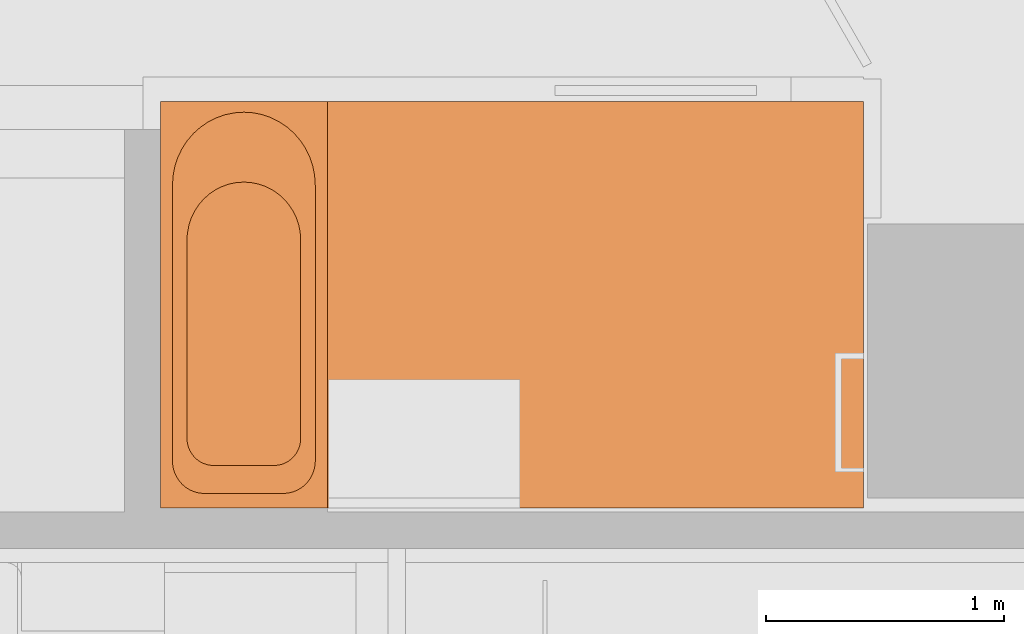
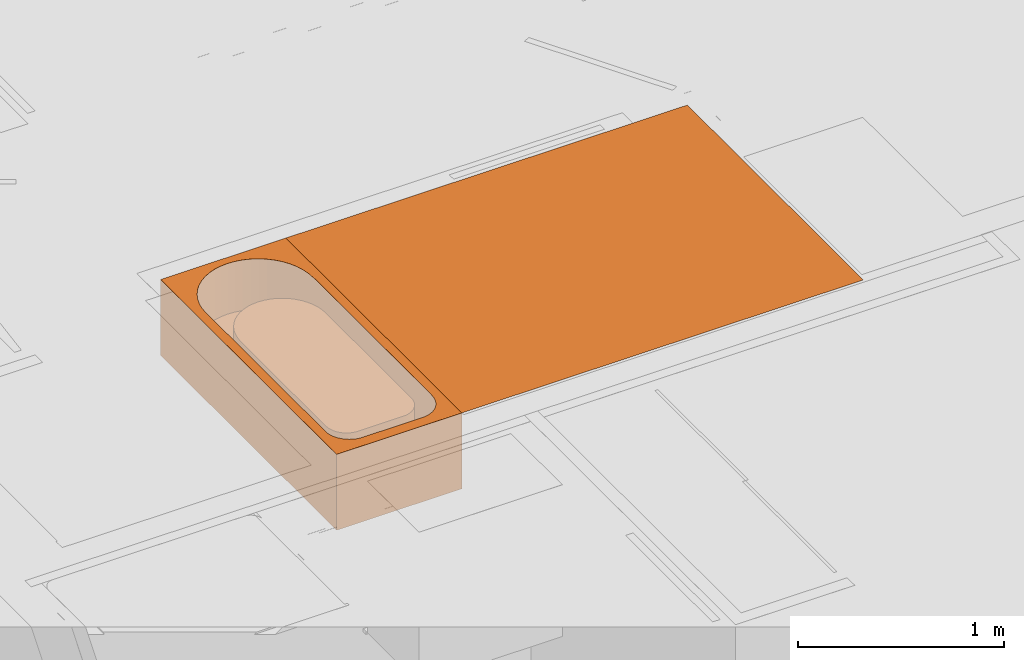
# Not in any storey, part 18 of 22: 2 proxies.
"""IFC4 model written with IfcOpenShell, lengths in metres."""

from ifc_helpers import new_model, si_unit, direction, origin_with_axes, place, context, subcontext, project, faceted_brep, element, save


model = new_model("IFC4")

# Units and contexts
model_context = context("Model", 3, precision=1e-05, world=origin_with_axes(), true_north=direction((1.0, 0.0)))
body_context = subcontext(model_context, "Body", "Model", "MODEL_VIEW")
ifc_project = project(units=[si_unit("LENGTHUNIT", "METRE"), si_unit("AREAUNIT", "SQUARE_METRE"), si_unit("VOLUMEUNIT", "CUBIC_METRE"), si_unit("MASSUNIT", "GRAM", prefix="KILO"), si_unit("TIMEUNIT", "SECOND"), si_unit("PLANEANGLEUNIT", "RADIAN"), si_unit("SOLIDANGLEUNIT", "STERADIAN")], contexts=[model_context])

# Proxies
placement = place(None, origin_with_axes())
element("IfcBuildingElementProxy", 1, at=placement, Name="Bloc Baignoire 170", PredefinedType="NOTDEFINED", context=body_context, shape_type="AdvancedBrep", body=[
    faceted_brep([(150.702811, 23.82924, 2.26), (150.702789, 22.996607, 2.26), (150.702583, 22.989184, 2.26), (150.701895, 22.98178, 2.26), (150.700729, 22.97443, 2.26), (150.699091, 22.967166, 2.26), (150.696986, 22.96002, 2.26), (150.694426, 22.953024, 2.26), (150.69142, 22.946209, 2.26), (150.687983, 22.939606, 2.26), (150.68413, 22.933243, 2.26), (150.679877, 22.927148, 2.26), (150.675245, 22.92135, 2.26), (150.670252, 22.915874, 2.26), (150.664922, 22.910744, 2.26), (150.659279, 22.905982, 2.26), (150.653346, 22.901611, 2.26), (150.647151, 22.897649, 2.26), (150.640722, 22.894114, 2.26), (150.634086, 22.891023, 2.26), (150.627274, 22.888387, 2.26), (150.620315, 22.88622, 2.26), (150.61324, 22.884531, 2.26), (150.606082, 22.883328, 2.26), (150.598871, 22.882615, 2.26), (150.59164, 22.882396, 2.26), (150.336136, 22.882397, 2.26), (150.328905, 22.882616, 2.26), (150.321694, 22.88333, 2.26), (150.314534, 22.884535, 2.26), (150.307458, 22.886226, 2.26), (150.300497, 22.888395, 2.26), (150.293682, 22.891034, 2.26), (150.287044, 22.894129, 2.26), (150.280612, 22.897667, 2.26), (150.274415, 22.901633, 2.26), (150.268482, 22.906008, 2.26), (150.262837, 22.910773, 2.26), (150.257508, 22.915907, 2.26), (150.252516, 22.921386, 2.26), (150.247886, 22.927187, 2.26), (150.243637, 22.933283, 2.26), (150.239788, 22.939647, 2.26), (150.236357, 22.946251, 2.26), (150.233359, 22.953065, 2.26), (150.230808, 22.960059, 2.26), (150.228714, 22.967201, 2.26), (150.227088, 22.974459, 2.26), (150.225936, 22.981802, 2.26), (150.225263, 22.989195, 2.26), (150.223877, 22.998894, 2.26), (150.223877, 23.828562, 2.26), (150.227061, 23.861094, 2.26), (150.233123, 23.892408, 2.26), (150.243141, 23.922645, 2.26), (150.256943, 23.951286, 2.26), (150.274292, 23.977841, 2.26), (150.294891, 24.001855, 2.26), (150.318388, 24.022915, 2.26), (150.344379, 24.040662, 2.26), (150.372419, 24.054791, 2.26), (150.402028, 24.065059, 2.26), (150.432697, 24.071292, 2.26), (150.463902, 24.073381, 2.26), (150.495107, 24.071292, 2.26), (150.525778, 24.065059, 2.26), (150.555389, 24.054791, 2.26), (150.583433, 24.040662, 2.26), (150.609429, 24.022915, 2.26), (150.632931, 24.001855, 2.26), (150.653537, 23.977841, 2.26), (150.670894, 23.951286, 2.26), (150.684703, 23.922645, 2.26), (150.694729, 23.892408, 2.26), (150.7008, 23.861094, 2.26), (150.816497, 24.412715, 2.31), (150.113819, 24.412715, 2.31), (150.113819, 22.702585, 2.31), (150.816497, 22.702585, 2.31), (150.765701, 22.914781, 2.31), (150.763662, 22.892954, 2.31), (150.762831, 22.884062, 2.31), (150.761429, 22.875238, 2.31), (150.759461, 22.86652, 2.31), (150.756936, 22.857947, 2.31), (150.753866, 22.849556, 2.31), (150.750264, 22.841385, 2.31), (150.746145, 22.833468, 2.31), (150.741528, 22.825842, 2.31), (150.736434, 22.81854, 2.31), (150.730883, 22.811592, 2.31), (150.724902, 22.805032, 2.31), (150.718515, 22.798886, 2.31), (150.711752, 22.793182, 2.31), (150.704642, 22.787945, 2.31), (150.697216, 22.783199, 2.31), (150.689507, 22.778963, 2.31), (150.681549, 22.775258, 2.31), (150.673377, 22.772098, 2.31), (150.665026, 22.769498, 2.31), (150.656534, 22.767469, 2.31), (150.647937, 22.76602, 2.31), (150.639274, 22.765158, 2.31), (150.630582, 22.764886, 2.31), (150.630582, 22.765152, 2.31), (150.288591, 22.765152, 2.31), (150.279933, 22.766004, 2.31), (150.271339, 22.767445, 2.31), (150.262849, 22.769467, 2.31), (150.254498, 22.772062, 2.31), (150.246325, 22.775218, 2.31), (150.238366, 22.778921, 2.31), (150.230655, 22.783155, 2.31), (150.223226, 22.787902, 2.31), (150.216113, 22.793139, 2.31), (150.209346, 22.798845, 2.31), (150.202957, 22.804993, 2.31), (150.196972, 22.811558, 2.31), (150.191418, 22.818509, 2.31), (150.186321, 22.825816, 2.31), (150.181702, 22.833447, 2.31), (150.177581, 22.841368, 2.31), (150.173978, 22.849543, 2.31), (150.170908, 22.857938, 2.31), (150.168384, 22.866515, 2.31), (150.166417, 22.875236, 2.31), (150.165017, 22.884062, 2.31), (150.164367, 22.891056, 2.31), (150.164615, 22.905767, 2.31), (150.164615, 24.015713, 2.31), (150.16392, 24.060613, 2.31), (150.166436, 24.100622, 2.31), (150.174051, 24.139951, 2.31), (150.186634, 24.177927, 2.31), (150.20397, 24.2139, 2.31), (150.225761, 24.247253, 2.31), (150.251634, 24.277413, 2.31), (150.281145, 24.303865, 2.31), (150.313789, 24.326155, 2.31), (150.349006, 24.3439, 2.31), (150.386192, 24.356797, 2.31), (150.424711, 24.364625, 2.31), (150.463902, 24.367249, 2.31), (150.503094, 24.364625, 2.31), (150.541614, 24.356797, 2.31), (150.578802, 24.3439, 2.31), (150.614022, 24.326155, 2.31), (150.64667, 24.303865, 2.31), (150.676185, 24.277413, 2.31), (150.702062, 24.247253, 2.31), (150.723858, 24.2139, 2.31), (150.741199, 24.177927, 2.31), (150.753788, 24.139951, 2.31), (150.761409, 24.100622, 2.31), (150.765701, 24.036706, 2.31), (150.113819, 24.412715, 1.86), (150.816497, 24.412715, 1.86), (150.816497, 22.702585, 1.86), (150.113819, 22.702585, 1.86), (150.763662, 22.892954, 1.86), (150.765701, 22.914781, 1.86), (150.765701, 24.036706, 1.86), (150.761409, 24.100622, 1.86), (150.753788, 24.139951, 1.86), (150.741199, 24.177927, 1.86), (150.723858, 24.2139, 1.86), (150.702062, 24.247253, 1.86), (150.676185, 24.277413, 1.86), (150.64667, 24.303865, 1.86), (150.614022, 24.326155, 1.86), (150.578802, 24.3439, 1.86), (150.541614, 24.356797, 1.86), (150.503094, 24.364625, 1.86), (150.463902, 24.367249, 1.86), (150.424711, 24.364625, 1.86), (150.386192, 24.356797, 1.86), (150.349006, 24.3439, 1.86), (150.313789, 24.326155, 1.86), (150.281145, 24.303865, 1.86), (150.251634, 24.277413, 1.86), (150.225761, 24.247253, 1.86), (150.20397, 24.2139, 1.86), (150.186634, 24.177927, 1.86), (150.174051, 24.139951, 1.86), (150.166436, 24.100622, 1.86), (150.16392, 24.060613, 1.86), (150.164615, 24.015713, 1.86), (150.164615, 22.905767, 1.86), (150.164367, 22.891056, 1.86), (150.165017, 22.884062, 1.86), (150.166417, 22.875236, 1.86), (150.168384, 22.866515, 1.86), (150.170908, 22.857938, 1.86), (150.173978, 22.849543, 1.86), (150.177581, 22.841368, 1.86), (150.181702, 22.833447, 1.86), (150.186321, 22.825816, 1.86), (150.191418, 22.818509, 1.86), (150.196972, 22.811558, 1.86), (150.202957, 22.804993, 1.86), (150.209346, 22.798845, 1.86), (150.216113, 22.793139, 1.86), (150.223226, 22.787902, 1.86), (150.230655, 22.783155, 1.86), (150.238366, 22.778921, 1.86), (150.246325, 22.775218, 1.86), (150.254498, 22.772062, 1.86), (150.262849, 22.769467, 1.86), (150.271339, 22.767445, 1.86), (150.279933, 22.766004, 1.86), (150.288591, 22.765152, 1.86), (150.630582, 22.765152, 1.86), (150.630582, 22.764886, 1.86), (150.639274, 22.765158, 1.86), (150.647937, 22.76602, 1.86), (150.656534, 22.767469, 1.86), (150.665026, 22.769498, 1.86), (150.673377, 22.772098, 1.86), (150.681549, 22.775258, 1.86), (150.689507, 22.778963, 1.86), (150.697216, 22.783199, 1.86), (150.704642, 22.787945, 1.86), (150.711752, 22.793182, 1.86), (150.718515, 22.798886, 1.86), (150.724902, 22.805032, 1.86), (150.730883, 22.811592, 1.86), (150.736434, 22.81854, 1.86), (150.741528, 22.825842, 1.86), (150.746145, 22.833468, 1.86), (150.750264, 22.841385, 1.86), (150.753866, 22.849556, 1.86), (150.756936, 22.857947, 1.86), (150.759461, 22.86652, 1.86), (150.761429, 22.875238, 1.86), (150.762831, 22.884062, 1.86), (150.763662, 22.892954, 2.01), (150.765701, 22.914781, 2.01), (150.765701, 24.036706, 2.01), (150.761409, 24.100622, 2.01), (150.753788, 24.139951, 2.01), (150.741199, 24.177927, 2.01), (150.723858, 24.2139, 2.01), (150.702062, 24.247253, 2.01), (150.676185, 24.277413, 2.01), (150.64667, 24.303865, 2.01), (150.614022, 24.326155, 2.01), (150.578802, 24.3439, 2.01), (150.541614, 24.356797, 2.01), (150.503094, 24.364625, 2.01), (150.463902, 24.367249, 2.01), (150.424711, 24.364625, 2.01), (150.386192, 24.356797, 2.01), (150.349006, 24.3439, 2.01), (150.313789, 24.326155, 2.01), (150.281145, 24.303865, 2.01), (150.251634, 24.277413, 2.01), (150.225761, 24.247253, 2.01), (150.20397, 24.2139, 2.01), (150.186634, 24.177927, 2.01), (150.174051, 24.139951, 2.01), (150.166436, 24.100622, 2.01), (150.16392, 24.060613, 2.01), (150.164615, 24.015713, 2.01), (150.164615, 22.905767, 2.01), (150.164367, 22.891056, 2.01), (150.165017, 22.884062, 2.01), (150.166417, 22.875236, 2.01), (150.168384, 22.866515, 2.01), (150.170908, 22.857938, 2.01), (150.173978, 22.849543, 2.01), (150.177581, 22.841368, 2.01), (150.181702, 22.833447, 2.01), (150.186321, 22.825816, 2.01), (150.191418, 22.818509, 2.01), (150.196972, 22.811558, 2.01), (150.202957, 22.804993, 2.01), (150.209346, 22.798845, 2.01), (150.216113, 22.793139, 2.01), (150.223226, 22.787902, 2.01), (150.230655, 22.783155, 2.01), (150.238366, 22.778921, 2.01), (150.246325, 22.775218, 2.01), (150.254498, 22.772062, 2.01), (150.262849, 22.769467, 2.01), (150.271339, 22.767445, 2.01), (150.279933, 22.766004, 2.01), (150.288591, 22.765152, 2.01), (150.630582, 22.765152, 2.01), (150.630582, 22.764886, 2.01), (150.639274, 22.765158, 2.01), (150.647937, 22.76602, 2.01), (150.656534, 22.767469, 2.01), (150.665026, 22.769498, 2.01), (150.673377, 22.772098, 2.01), (150.681549, 22.775258, 2.01), (150.689507, 22.778963, 2.01), (150.697216, 22.783199, 2.01), (150.704642, 22.787945, 2.01), (150.711752, 22.793182, 2.01), (150.718515, 22.798886, 2.01), (150.724902, 22.805032, 2.01), (150.730883, 22.811592, 2.01), (150.736434, 22.81854, 2.01), (150.741528, 22.825842, 2.01), (150.746145, 22.833468, 2.01), (150.750264, 22.841385, 2.01), (150.753866, 22.849556, 2.01), (150.756936, 22.857947, 2.01), (150.759461, 22.86652, 2.01), (150.761429, 22.875238, 2.01), (150.762831, 22.884062, 2.01), (150.318388, 24.022915, 2.01), (150.294891, 24.001855, 2.01), (150.274292, 23.977841, 2.01), (150.256943, 23.951286, 2.01), (150.243141, 23.922645, 2.01), (150.233123, 23.892408, 2.01), (150.227061, 23.861094, 2.01), (150.223877, 23.828562, 2.01), (150.223877, 22.998894, 2.01), (150.225263, 22.989195, 2.01), (150.225936, 22.981802, 2.01), (150.227088, 22.974459, 2.01), (150.228714, 22.967201, 2.01), (150.230808, 22.960059, 2.01), (150.233359, 22.953065, 2.01), (150.236357, 22.946251, 2.01), (150.239788, 22.939647, 2.01), (150.243637, 22.933283, 2.01), (150.247886, 22.927187, 2.01), (150.252516, 22.921386, 2.01), (150.257508, 22.915907, 2.01), (150.262837, 22.910773, 2.01), (150.268482, 22.906008, 2.01), (150.274415, 22.901633, 2.01), (150.280612, 22.897667, 2.01), (150.287044, 22.894129, 2.01), (150.293682, 22.891034, 2.01), (150.300497, 22.888395, 2.01), (150.307458, 22.886226, 2.01), (150.314534, 22.884535, 2.01), (150.321694, 22.88333, 2.01), (150.328905, 22.882616, 2.01), (150.336136, 22.882397, 2.01), (150.59164, 22.882396, 2.01), (150.598871, 22.882615, 2.01), (150.606082, 22.883328, 2.01), (150.61324, 22.884531, 2.01), (150.620315, 22.88622, 2.01), (150.627274, 22.888387, 2.01), (150.634086, 22.891023, 2.01), (150.640722, 22.894114, 2.01), (150.647151, 22.897649, 2.01), (150.653346, 22.901611, 2.01), (150.659279, 22.905982, 2.01), (150.664922, 22.910744, 2.01), (150.670252, 22.915874, 2.01), (150.675245, 22.92135, 2.01), (150.679877, 22.927148, 2.01), (150.68413, 22.933243, 2.01), (150.687983, 22.939606, 2.01), (150.69142, 22.946209, 2.01), (150.694426, 22.953024, 2.01), (150.696986, 22.96002, 2.01), (150.699091, 22.967166, 2.01), (150.700729, 22.97443, 2.01), (150.701895, 22.98178, 2.01), (150.702583, 22.989184, 2.01), (150.702789, 22.996607, 2.01), (150.702811, 23.82924, 2.01), (150.7008, 23.861094, 2.01), (150.694729, 23.892408, 2.01), (150.684703, 23.922645, 2.01), (150.670894, 23.951286, 2.01), (150.653537, 23.977841, 2.01), (150.632931, 24.001855, 2.01), (150.609429, 24.022915, 2.01), (150.583433, 24.040662, 2.01), (150.555389, 24.054791, 2.01), (150.525778, 24.065059, 2.01), (150.495107, 24.071292, 2.01), (150.463902, 24.073381, 2.01), (150.432697, 24.071292, 2.01), (150.402028, 24.065059, 2.01), (150.372419, 24.054791, 2.01), (150.344379, 24.040662, 2.01)], [[[0, 1, 2, 3, 4, 5, 6, 7, 8, 9, 10, 11, 12, 13, 14, 15, 16, 17, 18, 19, 20, 21, 22, 23, 24, 25, 26, 27, 28, 29, 30, 31, 32, 33, 34, 35, 36, 37, 38, 39, 40, 41, 42, 43, 44, 45, 46, 47, 48, 49, 50, 51, 52, 53, 54, 55, 56, 57, 58, 59, 60, 61, 62, 63, 64, 65, 66, 67, 68, 69, 70, 71, 72, 73, 74]], [[75, 76, 77, 78], [79, 80, 81, 82, 83, 84, 85, 86, 87, 88, 89, 90, 91, 92, 93, 94, 95, 96, 97, 98, 99, 100, 101, 102, 103, 104, 105, 106, 107, 108, 109, 110, 111, 112, 113, 114, 115, 116, 117, 118, 119, 120, 121, 122, 123, 124, 125, 126, 127, 128, 129, 130, 131, 132, 133, 134, 135, 136, 137, 138, 139, 140, 141, 142, 143, 144, 145, 146, 147, 148, 149, 150, 151, 152, 153, 154]], [[155, 156, 157, 158], [159, 160, 161, 162, 163, 164, 165, 166, 167, 168, 169, 170, 171, 172, 173, 174, 175, 176, 177, 178, 179, 180, 181, 182, 183, 184, 185, 186, 187, 188, 189, 190, 191, 192, 193, 194, 195, 196, 197, 198, 199, 200, 201, 202, 203, 204, 205, 206, 207, 208, 209, 210, 211, 212, 213, 214, 215, 216, 217, 218, 219, 220, 221, 222, 223, 224, 225, 226, 227, 228, 229, 230, 231, 232, 233, 234]], [[76, 75, 156, 155]], [[75, 78, 157, 156]], [[78, 77, 158, 157]], [[77, 76, 155, 158]], [[159, 235, 236, 160]], [[160, 236, 237, 161]], [[161, 237, 238, 162]], [[162, 238, 239, 163]], [[163, 239, 240, 164]], [[164, 240, 241, 165]], [[165, 241, 242, 166]], [[166, 242, 243, 167]], [[167, 243, 244, 168]], [[168, 244, 245, 169]], [[169, 245, 246, 170]], [[170, 246, 247, 171]], [[171, 247, 248, 172]], [[172, 248, 249, 173]], [[173, 249, 250, 174]], [[174, 250, 251, 175]], [[175, 251, 252, 176]], [[176, 252, 253, 177]], [[177, 253, 254, 178]], [[178, 254, 255, 179]], [[179, 255, 256, 180]], [[180, 256, 257, 181]], [[181, 257, 258, 182]], [[182, 258, 259, 183]], [[183, 259, 260, 184]], [[184, 260, 261, 185]], [[185, 261, 262, 186]], [[186, 262, 263, 187]], [[187, 263, 264, 188]], [[188, 264, 265, 189]], [[189, 265, 266, 190]], [[190, 266, 267, 191]], [[191, 267, 268, 192]], [[192, 268, 269, 193]], [[193, 269, 270, 194]], [[194, 270, 271, 195]], [[195, 271, 272, 196]], [[196, 272, 273, 197]], [[197, 273, 274, 198]], [[198, 274, 275, 199]], [[199, 275, 276, 200]], [[200, 276, 277, 201]], [[201, 277, 278, 202]], [[202, 278, 279, 203]], [[203, 279, 280, 204]], [[204, 280, 281, 205]], [[205, 281, 282, 206]], [[206, 282, 283, 207]], [[207, 283, 284, 208]], [[208, 284, 285, 209]], [[209, 285, 286, 210]], [[210, 286, 287, 211]], [[211, 287, 288, 212]], [[212, 288, 289, 213]], [[213, 289, 290, 214]], [[214, 290, 291, 215]], [[215, 291, 292, 216]], [[216, 292, 293, 217]], [[217, 293, 294, 218]], [[218, 294, 295, 219]], [[219, 295, 296, 220]], [[220, 296, 297, 221]], [[221, 297, 298, 222]], [[222, 298, 299, 223]], [[223, 299, 300, 224]], [[224, 300, 301, 225]], [[225, 301, 302, 226]], [[226, 302, 303, 227]], [[227, 303, 304, 228]], [[228, 304, 305, 229]], [[229, 305, 306, 230]], [[230, 306, 307, 231]], [[231, 307, 308, 232]], [[232, 308, 309, 233]], [[233, 309, 310, 234]], [[234, 310, 235, 159]], [[260, 259, 258, 257, 256, 255, 254, 253, 252, 251, 250, 249, 248, 247, 246, 245, 244, 243, 242, 241, 240, 239, 238, 237, 236, 235, 310, 309, 308, 307, 306, 305, 304, 303, 302, 301, 300, 299, 298, 297, 296, 295, 294, 293, 292, 291, 290, 289, 288, 287, 286, 285, 284, 283, 282, 281, 280, 279, 278, 277, 276, 275, 274, 273, 272, 271, 270, 269, 268, 267, 266, 265, 264, 263, 262, 261], [311, 312, 313, 314, 315, 316, 317, 318, 319, 320, 321, 322, 323, 324, 325, 326, 327, 328, 329, 330, 331, 332, 333, 334, 335, 336, 337, 338, 339, 340, 341, 342, 343, 344, 345, 346, 347, 348, 349, 350, 351, 352, 353, 354, 355, 356, 357, 358, 359, 360, 361, 362, 363, 364, 365, 366, 367, 368, 369, 370, 371, 372, 373, 374, 375, 376, 377, 378, 379, 380, 381, 382, 383, 384, 385]], [[132, 131, 260, 259]], [[133, 132, 259, 258]], [[134, 133, 258, 257]], [[135, 134, 257, 256]], [[136, 135, 256, 255]], [[137, 136, 255, 254]], [[138, 137, 254, 253]], [[139, 138, 253, 252]], [[140, 139, 252, 251]], [[141, 140, 251, 250]], [[142, 141, 250, 249]], [[143, 142, 249, 248]], [[144, 143, 248, 247]], [[145, 144, 247, 246]], [[146, 145, 246, 245]], [[147, 146, 245, 244]], [[148, 147, 244, 243]], [[149, 148, 243, 242]], [[150, 149, 242, 241]], [[151, 150, 241, 240]], [[152, 151, 240, 239]], [[153, 152, 239, 238]], [[154, 153, 238, 237]], [[79, 154, 237, 236]], [[80, 79, 236, 235]], [[81, 80, 235, 310]], [[82, 81, 310, 309]], [[83, 82, 309, 308]], [[84, 83, 308, 307]], [[85, 84, 307, 306]], [[86, 85, 306, 305]], [[87, 86, 305, 304]], [[88, 87, 304, 303]], [[89, 88, 303, 302]], [[90, 89, 302, 301]], [[91, 90, 301, 300]], [[92, 91, 300, 299]], [[93, 92, 299, 298]], [[94, 93, 298, 297]], [[95, 94, 297, 296]], [[96, 95, 296, 295]], [[97, 96, 295, 294]], [[98, 97, 294, 293]], [[99, 98, 293, 292]], [[100, 99, 292, 291]], [[101, 100, 291, 290]], [[102, 101, 290, 289]], [[103, 102, 289, 288]], [[104, 103, 288, 287]], [[105, 104, 287, 286]], [[106, 105, 286, 285]], [[107, 106, 285, 284]], [[108, 107, 284, 283]], [[109, 108, 283, 282]], [[110, 109, 282, 281]], [[111, 110, 281, 280]], [[112, 111, 280, 279]], [[113, 112, 279, 278]], [[114, 113, 278, 277]], [[115, 114, 277, 276]], [[116, 115, 276, 275]], [[117, 116, 275, 274]], [[118, 117, 274, 273]], [[119, 118, 273, 272]], [[120, 119, 272, 271]], [[121, 120, 271, 270]], [[122, 121, 270, 269]], [[123, 122, 269, 268]], [[124, 123, 268, 267]], [[125, 124, 267, 266]], [[126, 125, 266, 265]], [[127, 126, 265, 264]], [[128, 127, 264, 263]], [[129, 128, 263, 262]], [[130, 129, 262, 261]], [[131, 130, 261, 260]], [[58, 57, 312, 311]], [[57, 56, 313, 312]], [[56, 55, 314, 313]], [[55, 54, 315, 314]], [[54, 53, 316, 315]], [[53, 52, 317, 316]], [[52, 51, 318, 317]], [[51, 50, 319, 318]], [[50, 49, 320, 319]], [[49, 48, 321, 320]], [[48, 47, 322, 321]], [[47, 46, 323, 322]], [[46, 45, 324, 323]], [[45, 44, 325, 324]], [[44, 43, 326, 325]], [[43, 42, 327, 326]], [[42, 41, 328, 327]], [[41, 40, 329, 328]], [[40, 39, 330, 329]], [[39, 38, 331, 330]], [[38, 37, 332, 331]], [[37, 36, 333, 332]], [[36, 35, 334, 333]], [[35, 34, 335, 334]], [[34, 33, 336, 335]], [[33, 32, 337, 336]], [[32, 31, 338, 337]], [[31, 30, 339, 338]], [[30, 29, 340, 339]], [[29, 28, 341, 340]], [[28, 27, 342, 341]], [[27, 26, 343, 342]], [[26, 25, 344, 343]], [[25, 24, 345, 344]], [[24, 23, 346, 345]], [[23, 22, 347, 346]], [[22, 21, 348, 347]], [[21, 20, 349, 348]], [[20, 19, 350, 349]], [[19, 18, 351, 350]], [[18, 17, 352, 351]], [[17, 16, 353, 352]], [[16, 15, 354, 353]], [[15, 14, 355, 354]], [[14, 13, 356, 355]], [[13, 12, 357, 356]], [[12, 11, 358, 357]], [[11, 10, 359, 358]], [[10, 9, 360, 359]], [[9, 8, 361, 360]], [[8, 7, 362, 361]], [[7, 6, 363, 362]], [[6, 5, 364, 363]], [[5, 4, 365, 364]], [[4, 3, 366, 365]], [[3, 2, 367, 366]], [[2, 1, 368, 367]], [[1, 0, 369, 368]], [[0, 74, 370, 369]], [[74, 73, 371, 370]], [[73, 72, 372, 371]], [[72, 71, 373, 372]], [[71, 70, 374, 373]], [[70, 69, 375, 374]], [[69, 68, 376, 375]], [[68, 67, 377, 376]], [[67, 66, 378, 377]], [[66, 65, 379, 378]], [[65, 64, 380, 379]], [[64, 63, 381, 380]], [[63, 62, 382, 381]], [[62, 61, 383, 382]], [[61, 60, 384, 383]], [[60, 59, 385, 384]], [[59, 58, 311, 385]]]),
])
element("IfcBuildingElementProxy", 2, at=placement, Name="Undefined", PredefinedType="NOTDEFINED", context=body_context, shape_type="Brep", body=[
    faceted_brep([(153.06845, 24.41272, 2.31), (150.816497, 24.41272, 2.31), (150.816497, 22.702585, 2.31), (153.06845, 22.702585, 2.31)], [[[0, 1, 2, 3]]]),
])

save(model, "model.ifc")
